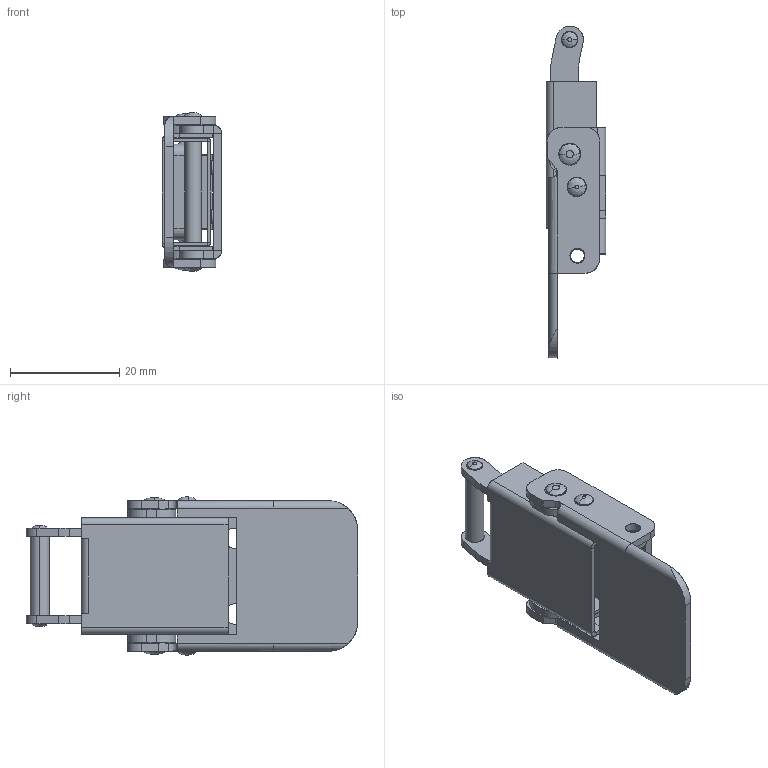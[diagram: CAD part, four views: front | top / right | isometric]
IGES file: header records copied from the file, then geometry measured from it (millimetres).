
Start section: SolidWorks IGES FILE using analytic representation for surfaces
Global section: file name: C:\Documents and Settings\brechard\Bureau\GP 12\GP 12.IGS; native system: SolidWorks 2001Plus by SolidWorks Corporation; preprocessor: Version 5.3; author: brechard; date: 050126.144254; units: millimetre
Bounding box: 10.9 x 60.8 x 29 mm (x, y, z)
Surface area: 10722.8 mm2 (no closed solid volume)
Topology: 0 solids, 0 shells, 306 faces, 4368 edges, 4367 vertices
Faces by surface type: bspline 201, revolution 105
